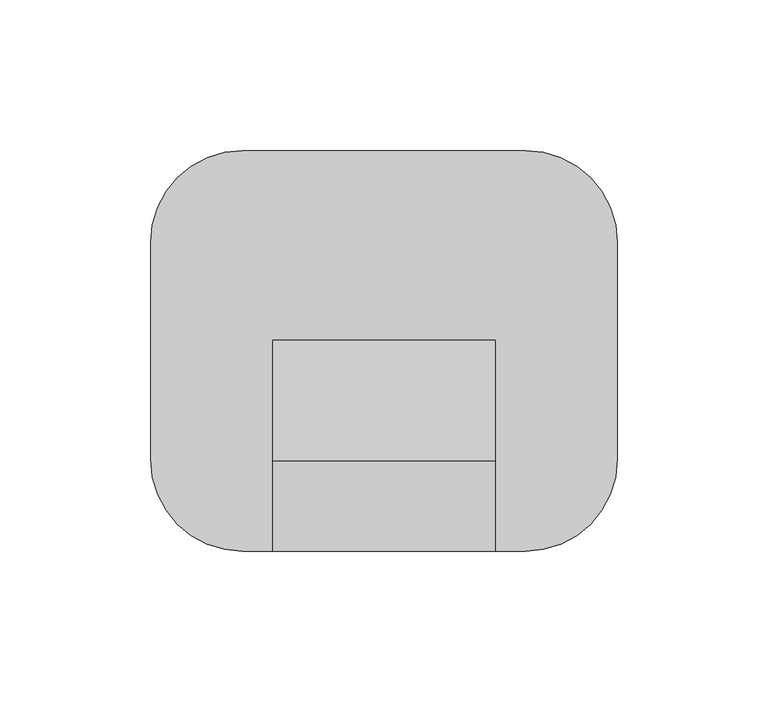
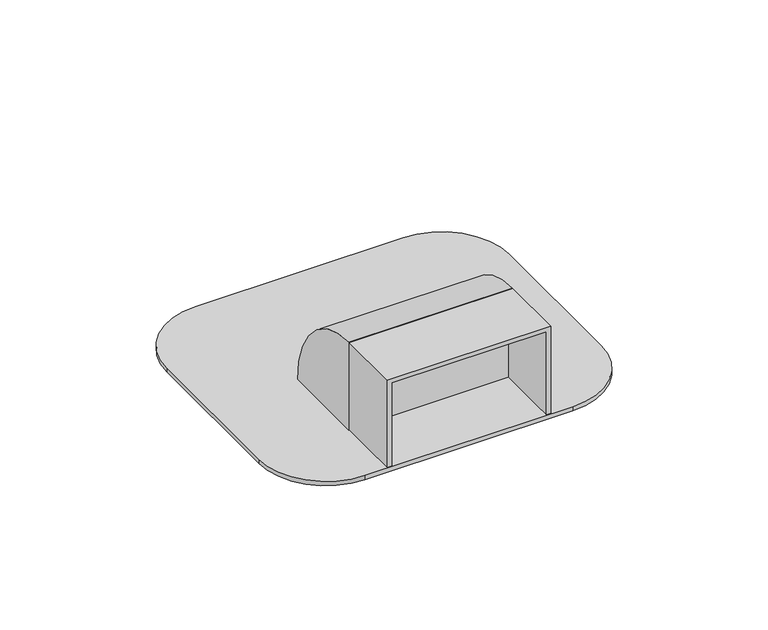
"""IFC4 building model written with IfcOpenShell, lengths in millimetres: duct fitting geometry, КНС_ВводВСтенуПодУглом_DKC : Ввод в стену."""

from ifc_helpers import new_model, si_unit, point, frame, frame_2d, origin, place, context, project, spatial, polyline, circle_curve, ellipse_curve, trimmed, segment, composite_curve, outline, extrude, source, transform, mapped, element, save
from ifc_brep_helpers import plane_surface, extruded_surface, advanced_brep


def duct_fitting_c839de67(model_context):
    return source(origin(), model_context, "Body", "SolidModel", [
        advanced_brep(
        [(37.0, 30.0, 22.0), (37.0, 30.0, -20.0), (37.0, 70.0, -20.0), (-37.0, 30.0, 22.0), (-37.0, 70.0, -20.0), (-37.0, 30.0, -20.0)],
        [
            (0, 1),
            (1, 2),
            (2, 0, ellipse_curve(frame((37.0, 30.0, -20.0), z_axis=(1.0, 0.0, 0.0), x_axis=(0.0, 0.0, -1.0)), 42.0, 40.0)),
            (3, 4, ellipse_curve(frame((-37.0, 30.0, -20.0), z_axis=(-1.0, 0.0, 0.0), x_axis=(0.0, 0.0, -1.0)), 42.0, 40.0)),
            (4, 5),
            (5, 3),
            (0, 3),
            (5, 1),
            (4, 2),
        ],
        [
            plane_surface(frame((37.0, 30.0, 22.0), z_axis=(1.0, 0.0, 0.0), x_axis=(0.0, 0.0, -1.0))),
            plane_surface(frame((-37.0, 30.0, 22.0), z_axis=(-1.0, 0.0, 0.0), x_axis=(0.0, 0.0, 1.0))),
            plane_surface(frame((37.0, 30.0, 22.0), z_axis=(0.0, -1.0, 0.0), x_axis=(-1.0, 0.0, 0.0))),
            plane_surface(frame((37.0, 30.0, -20.0), z_axis=(0.0, 0.0, -1.0), x_axis=(-1.0, 0.0, 0.0))),
            extruded_surface(trimmed(ellipse_curve(frame((-111.0, 30.0, -20.0), z_axis=(1.0, 0.0, 0.0), x_axis=(0.0, 0.0, -1.0)), 42.0, 40.0), [point((-111.0, 70.0, -20.0))], [point((-111.0, 30.0, 22.0))], True, "CARTESIAN"), (74.0, 0.0, 0.0), 74.0),
        ],
        [
            (0, [[1, 2, 3]]),
            (1, [[4, 5, 6]]),
            (2, [[-1, 7, -6, 8]]),
            (3, [[-2, -8, -5, 9]]),
            (4, [[-3, -9, -4, -7]]),
        ],
    ),
        extrude(outline(composite_curve([segment(trimmed(circle_curve(frame_2d((47.0, 102.5)), 30.5), [point((47.0, 133.0))], [point((77.5, 102.5))], False, "CARTESIAN"), True, "CONTINUOUS"), segment(polyline([(77.5, 102.5), (77.5, 30.5)]), True, "CONTINUOUS"), segment(trimmed(circle_curve(frame_2d((47.0, 30.5)), 30.5), [point((77.5, 30.5))], [point((47.0, 0.0))], False, "CARTESIAN"), True, "CONTINUOUS"), segment(polyline([(47.0, 0.0), (-47.0, 0.0)]), True, "CONTINUOUS"), segment(trimmed(circle_curve(frame_2d((-47.0, 30.5)), 30.5), [point((-47.0, 0.0))], [point((-77.5, 30.5))], False, "CARTESIAN"), True, "CONTINUOUS"), segment(polyline([(-77.5, 30.5), (-77.5, 102.5)]), True, "CONTINUOUS"), segment(trimmed(circle_curve(frame_2d((-47.0, 102.5)), 30.5), [point((-77.5, 102.5))], [point((-47.0, 133.0))], False, "CARTESIAN"), True, "CONTINUOUS"), segment(polyline([(-47.0, 133.0), (47.0, 133.0)]), True, "CONTINUOUS")], self_intersect=False)), frame((0.0, 0.0, -22.0), z_axis=(0.0, 0.0, 1.0), x_axis=(1.0, 0.0, 0.0)), (0.0, 0.0, 1.0), 2.0),
        extrude(outline(polyline([(-20.0, -35.0), (20.0, -35.0), (20.0, 35.0), (-20.0, 35.0), (-20.0, 37.0), (22.0, 37.0), (22.0, -37.0), (-20.0, -37.0), (-20.0, -35.0)])), frame((0.0, 0.0, 0.0), z_axis=(0.0, 1.0, 0.0), x_axis=(0.0, 0.0, 1.0)), (0.0, 0.0, 1.0), 30.0),
    ])


if __name__ == "__main__":
    model = new_model("IFC4")
    model_context = context("Model", 3, world=origin())
    ifc_project = project(units=[si_unit("LENGTHUNIT", "METRE", prefix="MILLI")], contexts=[model_context])
    site = spatial("IfcSite", under=ifc_project)
    building = spatial("IfcBuilding", under=site)
    placement = place(None, origin())
    duct_fitting_shape = duct_fitting_c839de67(model_context)
    element("IfcDuctFitting", 1, ObjectType="КНС_ВводВСтенуПодУглом_DKC : Ввод в стену", at=placement, inside=building, context=model_context, shape_type="MappedRepresentation", body=[
        mapped(duct_fitting_shape, transform((0.0, 0.0, 0.0), x_axis=(1.0, 0.0, 0.0), y_axis=(0.0, 1.0, 0.0), z_axis=(0.0, 0.0, 1.0))),
    ])
    save(model, "model.ifc")
